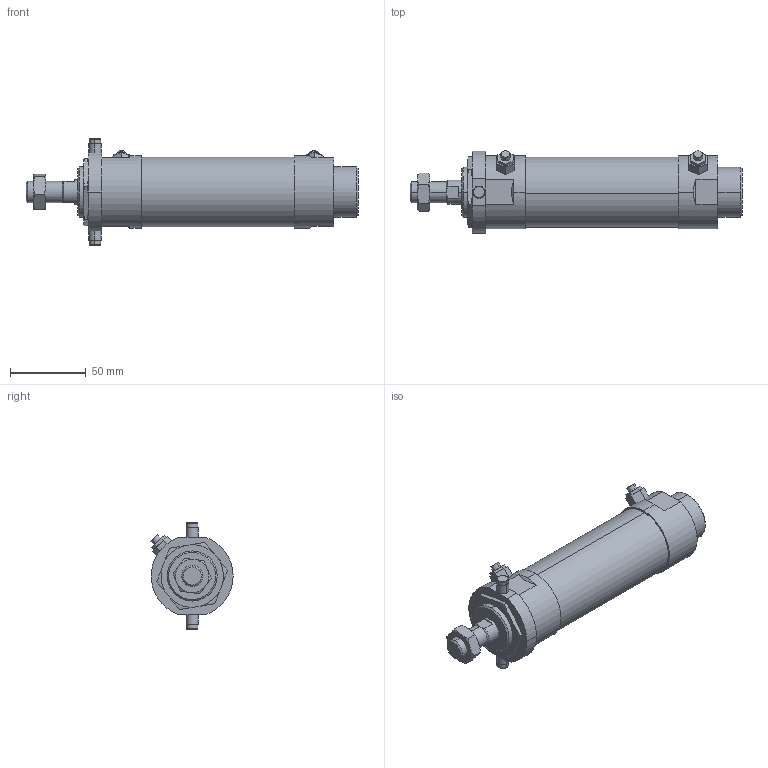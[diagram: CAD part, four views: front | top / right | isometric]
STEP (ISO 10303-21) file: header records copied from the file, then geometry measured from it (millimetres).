
FILE_DESCRIPTION (( 'STEP AP203' ), '1' );
FILE_NAME ('JG2-40-50-T.STEP', '2016-04-19T00:53:40', ( '' ), ( '' ), 'SwSTEP 2.0', 'SolidWorks 2014', '' );
FILE_SCHEMA (( 'CONFIG_CONTROL_DESIGN' ));
Length unit declared in the file: millimetre
Products named in the file (7): M14x1.5-8mm; J#2-40-T; JG2-40A; M33x2-3mm; JG2-40B; 40-50; JG2-40-50-T
Assembly tree (6 placements, depth 2):
  JG2-40-50-T
    JG2-40B
    40-50
    JG2-40A
    M14x1.5-8mm
    M33x2-3mm
    J#2-40-T
Bounding box: 219 x 54.22 x 70 mm (x, y, z)
Volume: 310956.1 mm3; surface area: 48947 mm2
Topology: 6 solids, 6 shells, 157 faces, 363 edges, 227 vertices
Faces by surface type: plane 71, cylinder 39, torus 24, cone 23
Entity records: 5499 total; most frequent: CARTESIAN_POINT 1255, DIRECTION 740, ORIENTED_EDGE 718, EDGE_CURVE 359, AXIS2_PLACEMENT_3D 286, VERTEX_POINT 227, EDGE_LOOP 176, VECTOR 168
